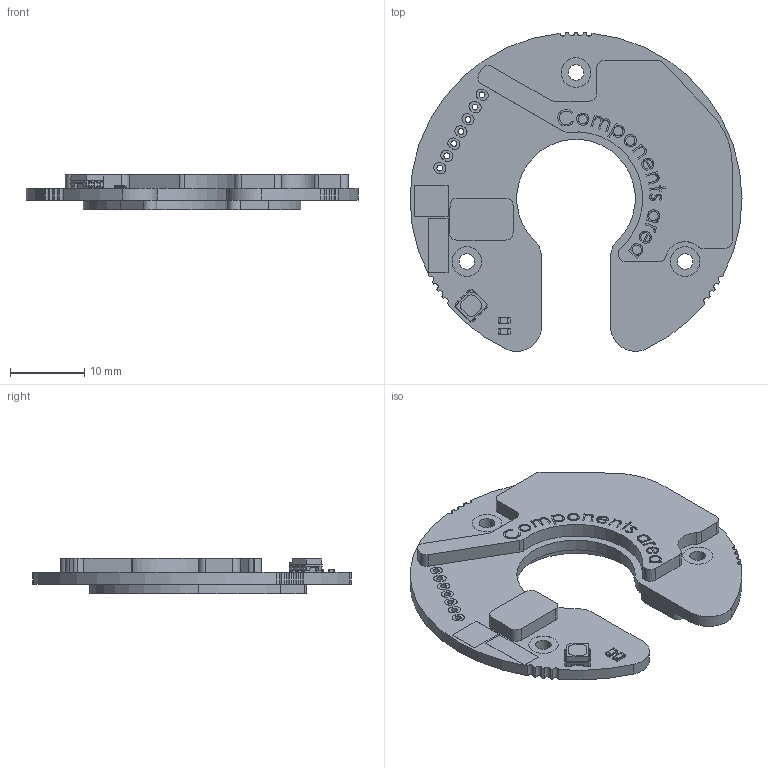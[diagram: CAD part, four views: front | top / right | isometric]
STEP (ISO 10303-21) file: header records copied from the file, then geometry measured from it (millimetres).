
FILE_DESCRIPTION (( 'STEP AP214' ), '1' );
FILE_NAME ('Orbis_fi16_v04_brez_konektorja_pokrov.STEP', '2024-01-23T06:52:28', ( '' ), ( '' ), 'SwSTEP 2.0', 'SolidWorks 2022', '' );
FILE_SCHEMA (( 'AUTOMOTIVE_DESIGN' ));
Length unit declared in the file: millimetre
Products named in the file (1): Orbis_fi16_v04_brez_konektorja_pokrov
Bounding box: 44.8 x 43.02 x 4.75 mm (x, y, z)
Volume: 3269.9 mm3; surface area: 3340.4 mm2
Topology: 4 solids, 4 shells, 917 faces, 2526 edges, 1676 vertices
Faces by surface type: plane 448, bspline 249, cylinder 220
Entity records: 50342 total; most frequent: CARTESIAN_POINT 18053, ORIENTED_EDGE 5052, DIRECTION 3802, EDGE_CURVE 2526, VERTEX_POINT 1676, LINE 1584, VECTOR 1584, AXIS2_PLACEMENT_3D 1109
